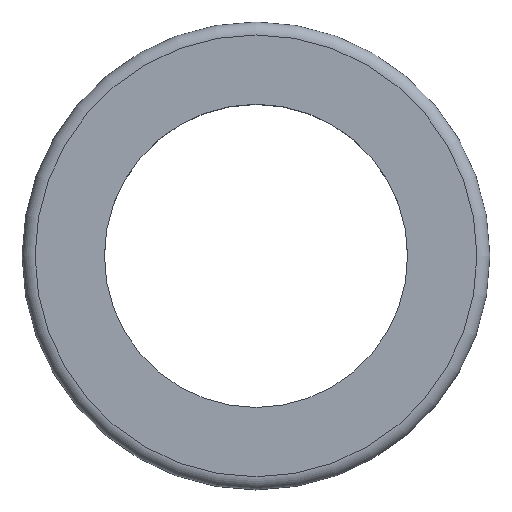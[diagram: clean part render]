
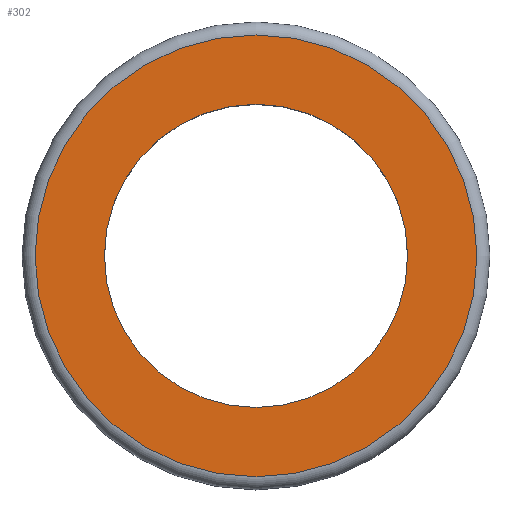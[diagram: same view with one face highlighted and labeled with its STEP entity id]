
A CAD part, top view. The second image highlights one B-rep face of the part: STEP entity #302.
In plain terms, the highlighted planar face has unit normal (0, 0, 1).
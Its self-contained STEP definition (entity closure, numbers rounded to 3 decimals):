
#31 = CYLINDRICAL_SURFACE('',#32,3.5);
#32 = AXIS2_PLACEMENT_3D('',#33,#34,#35);
#33 = CARTESIAN_POINT('',(0.,0.,1.9));
#34 = DIRECTION('',(0.,0.,1.));
#35 = DIRECTION('',(1.,0.,-0.));
#56 = VERTEX_POINT('',#57);
#57 = CARTESIAN_POINT('',(3.5,0.,3.5));
#78 = EDGE_CURVE('',#56,#56,#79,.T.);
#79 = SURFACE_CURVE('',#80,(#85,#92),.PCURVE_S1.);
#80 = CIRCLE('',#81,3.5);
#81 = AXIS2_PLACEMENT_3D('',#82,#83,#84);
#82 = CARTESIAN_POINT('',(0.,0.,3.5));
#83 = DIRECTION('',(0.,0.,1.));
#84 = DIRECTION('',(1.,0.,-0.));
#85 = PCURVE('',#31,#86);
#86 = DEFINITIONAL_REPRESENTATION('',(#87),#91);
#87 = LINE('',#88,#89);
#88 = CARTESIAN_POINT('',(0.,1.6));
#89 = VECTOR('',#90,1.);
#90 = DIRECTION('',(1.,0.));
#91 = ( GEOMETRIC_REPRESENTATION_CONTEXT(2) 
PARAMETRIC_REPRESENTATION_CONTEXT() REPRESENTATION_CONTEXT('2D SPACE',''
  ) );
#92 = PCURVE('',#93,#98);
#93 = PLANE('',#94);
#94 = AXIS2_PLACEMENT_3D('',#95,#96,#97);
#95 = CARTESIAN_POINT('',(0.,0.,3.5));
#96 = DIRECTION('',(0.,0.,1.));
#97 = DIRECTION('',(1.,0.,-0.));
#98 = DEFINITIONAL_REPRESENTATION('',(#99),#103);
#99 = CIRCLE('',#100,3.5);
#100 = AXIS2_PLACEMENT_2D('',#101,#102);
#101 = CARTESIAN_POINT('',(0.,0.));
#102 = DIRECTION('',(1.,-0.));
#103 = ( GEOMETRIC_REPRESENTATION_CONTEXT(2) 
PARAMETRIC_REPRESENTATION_CONTEXT() REPRESENTATION_CONTEXT('2D SPACE',''
  ) );
#239 = TOROIDAL_SURFACE('',#240,5.1,0.3);
#240 = AXIS2_PLACEMENT_3D('',#241,#242,#243);
#241 = CARTESIAN_POINT('',(0.,0.,3.2));
#242 = DIRECTION('',(0.,0.,1.));
#243 = DIRECTION('',(1.,0.,-0.));
#257 = VERTEX_POINT('',#258);
#258 = CARTESIAN_POINT('',(5.1,0.,3.5));
#280 = EDGE_CURVE('',#257,#257,#281,.T.);
#281 = SURFACE_CURVE('',#282,(#287,#294),.PCURVE_S1.);
#282 = CIRCLE('',#283,5.1);
#283 = AXIS2_PLACEMENT_3D('',#284,#285,#286);
#284 = CARTESIAN_POINT('',(0.,0.,3.5));
#285 = DIRECTION('',(0.,0.,1.));
#286 = DIRECTION('',(1.,0.,-0.));
#287 = PCURVE('',#239,#288);
#288 = DEFINITIONAL_REPRESENTATION('',(#289),#293);
#289 = LINE('',#290,#291);
#290 = CARTESIAN_POINT('',(0.,1.571));
#291 = VECTOR('',#292,1.);
#292 = DIRECTION('',(1.,0.));
#293 = ( GEOMETRIC_REPRESENTATION_CONTEXT(2) 
PARAMETRIC_REPRESENTATION_CONTEXT() REPRESENTATION_CONTEXT('2D SPACE',''
  ) );
#294 = PCURVE('',#93,#295);
#295 = DEFINITIONAL_REPRESENTATION('',(#296),#300);
#296 = CIRCLE('',#297,5.1);
#297 = AXIS2_PLACEMENT_2D('',#298,#299);
#298 = CARTESIAN_POINT('',(0.,0.));
#299 = DIRECTION('',(1.,-0.));
#300 = ( GEOMETRIC_REPRESENTATION_CONTEXT(2) 
PARAMETRIC_REPRESENTATION_CONTEXT() REPRESENTATION_CONTEXT('2D SPACE',''
  ) );
#302 = ADVANCED_FACE('',(#303,#306),#93,.T.);
#303 = FACE_BOUND('',#304,.F.);
#304 = EDGE_LOOP('',(#305));
#305 = ORIENTED_EDGE('',*,*,#78,.T.);
#306 = FACE_BOUND('',#307,.F.);
#307 = EDGE_LOOP('',(#308));
#308 = ORIENTED_EDGE('',*,*,#280,.F.);
